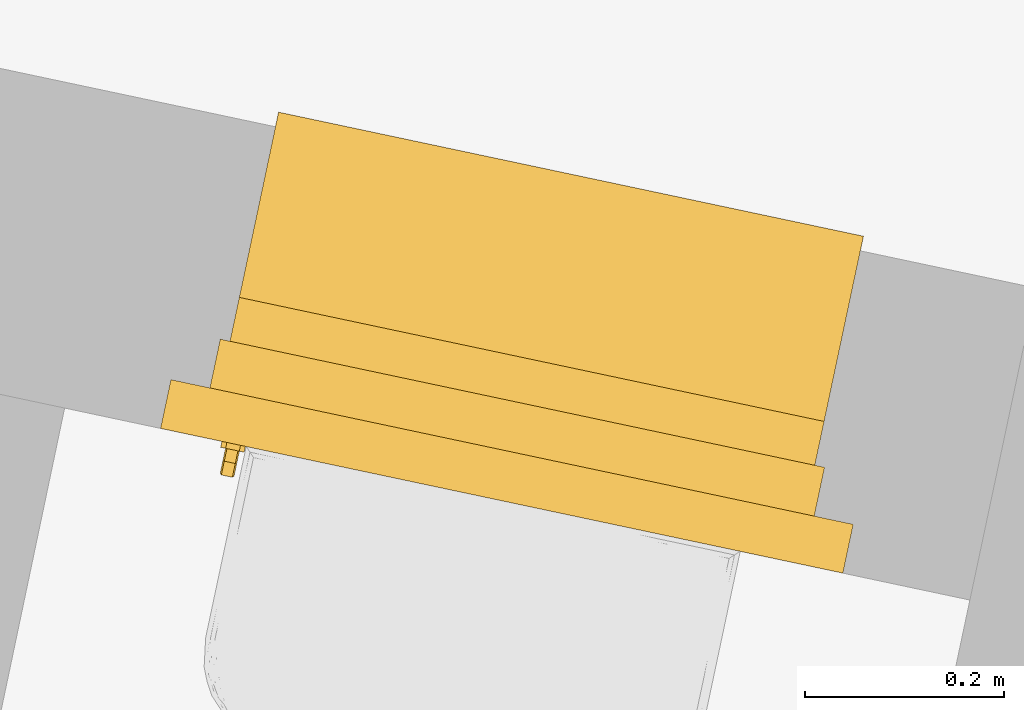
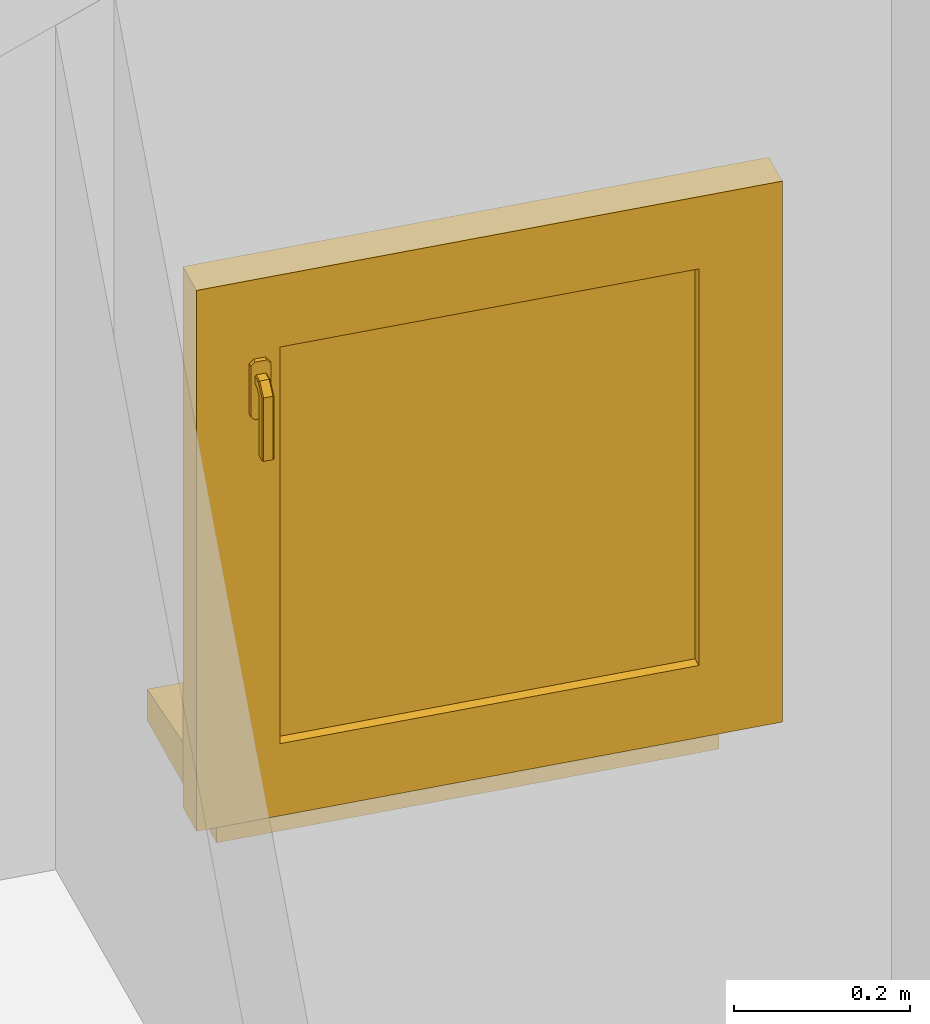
# One storey, part 17 of 20: 1 window.
"""IFC2X3 building model written with IfcOpenShell, lengths in metres."""

from ifc_helpers import new_model, entity, si_unit, converted_unit, derived_unit, direction, frame, origin, place, context, subcontext, project, spatial, faceted_brep, source, transform, mapped, material, material_list, type_object, type_shapes, element, save


model = new_model("IFC2X3")

# Units and contexts
model_context = context("Model", 3, precision=1e-05, world=origin(), true_north=direction((6.12303176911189e-17, 1.0)))
body_context = subcontext(model_context, "Body", "Model", "MODEL_VIEW")
ifc_project = project(units=[si_unit("LENGTHUNIT", "METRE"), si_unit("AREAUNIT", "SQUARE_METRE"), si_unit("VOLUMEUNIT", "CUBIC_METRE"), converted_unit("PLANEANGLEUNIT", "DEGREE", entity("IfcRatioMeasure", 0.0174532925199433), si_unit("PLANEANGLEUNIT", "RADIAN"), dimensions=[0, 0, 0, 0, 0, 0, 0]), si_unit("MASSUNIT", "GRAM", prefix="KILO"), derived_unit("MASSDENSITYUNIT", [(si_unit("MASSUNIT", "GRAM", prefix="KILO"), 1), (si_unit("LENGTHUNIT", "METRE"), -3)]), si_unit("TIMEUNIT", "SECOND"), si_unit("FREQUENCYUNIT", "HERTZ"), si_unit("THERMODYNAMICTEMPERATUREUNIT", "DEGREE_CELSIUS"), derived_unit("THERMALTRANSMITTANCEUNIT", [(si_unit("MASSUNIT", "GRAM", prefix="KILO"), 1), (si_unit("THERMODYNAMICTEMPERATUREUNIT", "KELVIN"), -1), (si_unit("TIMEUNIT", "SECOND"), -3)]), derived_unit("VOLUMETRICFLOWRATEUNIT", [(si_unit("LENGTHUNIT", "METRE"), 3), (si_unit("TIMEUNIT", "SECOND"), -1)]), si_unit("ELECTRICCURRENTUNIT", "AMPERE"), si_unit("ELECTRICVOLTAGEUNIT", "VOLT"), si_unit("POWERUNIT", "WATT"), si_unit("FORCEUNIT", "NEWTON", prefix="KILO"), si_unit("ILLUMINANCEUNIT", "LUX"), si_unit("LUMINOUSFLUXUNIT", "LUMEN"), si_unit("LUMINOUSINTENSITYUNIT", "CANDELA"), derived_unit("USERDEFINED", [(si_unit("MASSUNIT", "GRAM", prefix="KILO"), -1), (si_unit("LENGTHUNIT", "METRE"), -2), (si_unit("TIMEUNIT", "SECOND"), 3), (si_unit("LUMINOUSFLUXUNIT", "LUMEN"), 1)]), derived_unit("LINEARVELOCITYUNIT", [(si_unit("LENGTHUNIT", "METRE"), 1), (si_unit("TIMEUNIT", "SECOND"), -1)]), si_unit("PRESSUREUNIT", "PASCAL"), derived_unit("USERDEFINED", [(si_unit("LENGTHUNIT", "METRE"), -2), (si_unit("MASSUNIT", "GRAM", prefix="KILO"), 1), (si_unit("TIMEUNIT", "SECOND"), -2)])], contexts=[model_context])

# Site, building, storey
site_placement = place(None, origin())
site = spatial("IfcSite", under=ifc_project, at=site_placement, Name="Default", CompositionType="ELEMENT")
building_placement = place(site_placement, origin())
building = spatial("IfcBuilding", under=site, at=building_placement, CompositionType="ELEMENT")
storey_placement = place(building_placement, frame((0.0, 0.0, -0.0686871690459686)))
storey = spatial("IfcBuildingStorey", under=building, at=storey_placement, Name="RDC", CompositionType="ELEMENT", Elevation=-0.0686871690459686)

# Window
ifc_material_1 = material(Name="Fenêtre - Poignée")
ifc_material_2 = material(Name="Fenêtre - Appui")
ifc_material_3 = material(Name="Verre - Opaque Blanc")
ifc_material_4 = material(Name="PVC - Blanc")
ifc_material_5 = material(Name="Fenêtre - Cadre")
ifc_material_list_1 = material_list([ifc_material_1, ifc_material_2, ifc_material_3, ifc_material_4, ifc_material_5])
ifc_material_list_2 = material_list([ifc_material_1, ifc_material_2, ifc_material_3, ifc_material_4, ifc_material_5])
window_style = type_object("IfcWindowStyle", Name="0.60 X 0.70", ConstructionType="NOTDEFINED", OperationType="SINGLE_PANEL", ParameterTakesPrecedence=False, Sizeable=False, material=ifc_material_list_2)
shared_shape = source(origin(), body_context, "Body", "Brep", [
    faceted_brep([(0.0806460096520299, 0.333999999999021, 0.702033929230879), (0.0820339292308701, 0.333999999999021, 0.700646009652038), (0.0820339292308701, 0.333999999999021, 0.689332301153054), (0.0806676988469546, 0.333999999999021, 0.687966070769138), (0.0693323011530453, 0.333999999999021, 0.687966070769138), (0.0679660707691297, 0.333999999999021, 0.689332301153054), (0.0679660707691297, 0.333999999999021, 0.700646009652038), (0.0693539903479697, 0.333999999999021, 0.702033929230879), (0.0806460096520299, 0.321086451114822, 0.702033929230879), (0.0820339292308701, 0.321661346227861, 0.700646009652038), (0.0820339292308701, 0.308353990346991, 0.687338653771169), (0.0820339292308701, 0.308353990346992, 0.600000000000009), (0.0820339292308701, 0.319667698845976, 0.600000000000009), (0.0820339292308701, 0.319667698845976, 0.682652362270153), (0.0820339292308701, 0.326347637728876, 0.689332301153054), (0.0806676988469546, 0.32691354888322, 0.687966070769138), (0.0693323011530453, 0.32691354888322, 0.687966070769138), (0.0679660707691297, 0.326347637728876, 0.689332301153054), (0.0679660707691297, 0.319667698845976, 0.682652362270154), (0.0679660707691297, 0.319667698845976, 0.600000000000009), (0.0679660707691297, 0.308353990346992, 0.600000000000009), (0.0679660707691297, 0.308353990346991, 0.687338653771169), (0.0679660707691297, 0.321661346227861, 0.700646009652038), (0.0693539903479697, 0.321086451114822, 0.702033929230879), (0.0806460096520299, 0.306966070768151, 0.687913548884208), (0.0806676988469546, 0.321033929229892, 0.68208645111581), (0.0693323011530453, 0.321033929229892, 0.68208645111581), (0.0693539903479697, 0.306966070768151, 0.687913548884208), (0.0806460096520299, 0.306966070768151, 0.600000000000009), (0.0693539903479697, 0.306966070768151, 0.600000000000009), (0.0693323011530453, 0.321033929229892, 0.600000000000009), (0.0806676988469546, 0.321033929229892, 0.600000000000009)], [[[0, 1, 2, 3, 4, 5, 6, 7]], [[1, 0, 8, 9]], [[2, 1, 9, 10, 11, 12, 13, 14]], [[3, 2, 14, 15]], [[4, 3, 15, 16]], [[5, 4, 16, 17]], [[6, 5, 17, 18, 19, 20, 21, 22]], [[7, 6, 22, 23]], [[0, 7, 23, 8]], [[9, 8, 24, 10]], [[15, 14, 13, 25]], [[16, 15, 25, 26]], [[17, 16, 26, 18]], [[23, 22, 21, 27]], [[8, 23, 27, 24]], [[28, 29, 20, 19, 30, 31, 12, 11]], [[10, 24, 28, 11]], [[25, 13, 12, 31]], [[26, 25, 31, 30]], [[18, 26, 30, 19]], [[27, 21, 20, 29]], [[24, 27, 29, 28]]]),
    faceted_brep([(0.082000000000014, 0.334, 0.720000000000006), (0.0679999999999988, 0.334, 0.720000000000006), (0.0629999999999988, 0.334, 0.715000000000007), (0.0629999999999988, 0.334, 0.644999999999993), (0.0679999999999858, 0.334, 0.640000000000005), (0.082000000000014, 0.334, 0.640000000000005), (0.0869999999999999, 0.334, 0.644999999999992), (0.0869999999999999, 0.334, 0.715000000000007), (0.082000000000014, 0.34, 0.720000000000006), (0.0869999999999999, 0.34, 0.715000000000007), (0.0869999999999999, 0.34, 0.644999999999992), (0.082000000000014, 0.34, 0.640000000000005), (0.0679999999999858, 0.34, 0.640000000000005), (0.0629999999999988, 0.34, 0.644999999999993), (0.0629999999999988, 0.34, 0.715000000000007), (0.0679999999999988, 0.34, 0.720000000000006)], [[[0, 1, 2, 3, 4, 5, 6, 7]], [[8, 9, 10, 11, 12, 13, 14, 15]], [[1, 0, 8, 15]], [[2, 1, 15, 14]], [[3, 2, 14, 13]], [[4, 3, 13, 12]], [[5, 4, 12, 11]], [[6, 5, 11, 10]], [[7, 6, 10, 9]], [[0, 7, 9, 8]]]),
    faceted_brep([(0.0499999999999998, 0.42000000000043, 0.0799999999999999), (0.0499999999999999, 0.470000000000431, 0.0799999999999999), (0.0499999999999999, 0.470000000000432, 0.0650000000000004), (0.0500000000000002, 0.675000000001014, 0.0434536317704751), (0.0500000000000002, 0.675000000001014, 0.0), (0.0499999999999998, 0.42000000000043, 0.0), (0.649999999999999, 0.420000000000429, 0.0799999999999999), (0.649999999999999, 0.420000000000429, 0.0), (0.65, 0.675000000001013, 0.0), (0.65, 0.675000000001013, 0.0434536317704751), (0.65, 0.470000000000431, 0.0650000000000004), (0.65, 0.47000000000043, 0.0799999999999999)], [[[0, 1, 2, 3, 4, 5]], [[6, 7, 8, 9, 10, 11]], [[1, 0, 6, 11]], [[2, 1, 11, 10]], [[3, 2, 10, 9]], [[4, 3, 9, 8]], [[5, 4, 8, 7]], [[0, 5, 7, 6]]]),
    faceted_brep([(0.0999999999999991, 0.365999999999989, 0.18), (0.0999999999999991, 0.365999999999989, 0.729999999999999), (0.6, 0.365999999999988, 0.729999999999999), (0.6, 0.365999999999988, 0.18), (0.0999999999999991, 0.353999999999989, 0.18), (0.6, 0.353999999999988, 0.18), (0.6, 0.353999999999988, 0.729999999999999), (0.0999999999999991, 0.353999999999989, 0.729999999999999)], [[[0, 1, 2, 3]], [[4, 5, 6, 7]], [[1, 0, 4, 7]], [[2, 1, 7, 6]], [[3, 2, 6, 5]], [[0, 3, 5, 4]]]),
    faceted_brep([(0.0999999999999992, 0.379999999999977, 0.18), (0.0999999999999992, 0.33999999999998, 0.18), (0.6, 0.339999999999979, 0.18), (0.6, 0.379999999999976, 0.18), (0.0499999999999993, 0.33999999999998, 0.13), (0.0499999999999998, 0.379999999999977, 0.13), (0.649999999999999, 0.379999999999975, 0.13), (0.649999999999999, 0.339999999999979, 0.13), (0.6, 0.339999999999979, 0.729999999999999), (0.6, 0.379999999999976, 0.729999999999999), (0.649999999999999, 0.379999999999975, 0.779999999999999), (0.649999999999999, 0.339999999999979, 0.779999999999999), (0.0999999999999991, 0.33999999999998, 0.729999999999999), (0.0999999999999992, 0.379999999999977, 0.729999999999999), (0.0499999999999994, 0.379999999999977, 0.779999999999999), (0.0499999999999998, 0.33999999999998, 0.779999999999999)], [[[0, 1, 2, 3]], [[4, 5, 6, 7]], [[3, 2, 8, 9]], [[7, 6, 10, 11]], [[9, 8, 12, 13]], [[11, 10, 14, 15]], [[13, 12, 1, 0]], [[3, 9, 13, 0], [5, 14, 10, 6]], [[15, 14, 5, 4]], [[7, 11, 15, 4], [1, 12, 8, 2]]], outer=[[True], [True], [True], [True], [True], [True], [True], [False, True], [True], [True, False]]),
    faceted_brep([(0.0, 0.34, 0.0799999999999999), (0.0, 0.39, 0.0799999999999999), (0.0499999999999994, 0.39, 0.0799999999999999), (0.0499999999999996, 0.474999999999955, 0.0799999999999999), (0.649999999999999, 0.474999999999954, 0.0800000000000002), (0.649999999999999, 0.39, 0.0799999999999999), (0.699999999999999, 0.39, 0.0799999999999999), (0.699999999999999, 0.34, 0.0799999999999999), (0.0649999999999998, 0.39, 0.764999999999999), (0.0649999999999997, 0.39, 0.145), (0.634999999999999, 0.39, 0.145), (0.634999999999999, 0.39, 0.764999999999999), (0.0, 0.39, 0.829999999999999), (0.699999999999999, 0.39, 0.829999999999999), (0.649999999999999, 0.39, 0.119376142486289), (0.0499999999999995, 0.39, 0.119376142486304), (0.0649999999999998, 0.38, 0.764999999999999), (0.0649999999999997, 0.38, 0.145), (0.649999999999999, 0.38, 0.779999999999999), (0.0499999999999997, 0.38, 0.779999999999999), (0.0499999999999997, 0.38, 0.13), (0.649999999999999, 0.38, 0.13), (0.634999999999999, 0.38, 0.764999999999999), (0.634999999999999, 0.38, 0.145), (0.0499999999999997, 0.34, 0.779999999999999), (0.0499999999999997, 0.34, 0.13), (0.699999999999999, 0.34, 0.829999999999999), (0.0, 0.34, 0.829999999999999), (0.649999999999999, 0.34, 0.779999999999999), (0.649999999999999, 0.34, 0.13), (0.0499999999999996, 0.484999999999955, 0.0939209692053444), (0.0499999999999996, 0.484999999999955, 0.0749999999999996), (0.0499999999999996, 0.474999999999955, 0.0749999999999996), (0.649999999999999, 0.474999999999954, 0.0749999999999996), (0.649999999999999, 0.484999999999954, 0.0749999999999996), (0.649999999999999, 0.484999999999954, 0.0939209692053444)], [[[0, 1, 2, 3, 4, 5, 6, 7]], [[8, 9, 10, 11], [1, 12, 13, 6, 5, 14, 15, 2]], [[8, 16, 17, 9]], [[18, 19, 20, 21], [16, 22, 23, 17]], [[20, 19, 24, 25]], [[0, 7, 26, 27], [28, 29, 25, 24]], [[1, 0, 27, 12]], [[8, 11, 22, 16]], [[19, 18, 28, 24]], [[13, 12, 27, 26]], [[22, 11, 10, 23]], [[28, 18, 21, 29]], [[6, 13, 26, 7]], [[15, 30, 31, 32, 3, 2]], [[4, 33, 34, 35, 14, 5]], [[25, 29, 21, 20]], [[17, 23, 10, 9]], [[30, 15, 14, 35]], [[31, 30, 35, 34]], [[32, 31, 34, 33]], [[3, 32, 33, 4]]], outer=[[True], [False, True], [True], [True, False], [True], [True, False], [True], [True], [True], [True], [True], [True], [True], [True], [True], [True], [True], [True], [True], [True], [True]]),
    faceted_brep([(0.0499999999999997, 0.440000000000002, 0.0799999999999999), (0.0499999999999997, 0.389999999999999, 0.0799999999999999), (0.0399999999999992, 0.389999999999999, 0.0799999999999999), (0.0399999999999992, 0.440000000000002, 0.0799999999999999), (0.0499999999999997, 0.440000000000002, 0.779999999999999), (0.0499999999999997, 0.389999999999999, 0.779999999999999), (0.649999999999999, 0.389999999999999, 0.779999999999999), (0.649999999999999, 0.389999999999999, 0.0799999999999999), (0.66, 0.389999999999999, 0.0799999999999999), (0.66, 0.389999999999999, 0.789999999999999), (0.0399999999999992, 0.389999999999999, 0.79), (0.0399999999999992, 0.440000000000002, 0.79), (0.66, 0.440000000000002, 0.789999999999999), (0.66, 0.440000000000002, 0.0799999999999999), (0.649999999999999, 0.440000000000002, 0.0799999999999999), (0.649999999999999, 0.440000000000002, 0.779999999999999)], [[[0, 1, 2, 3]], [[1, 0, 4, 5]], [[2, 1, 5, 6, 7, 8, 9, 10]], [[3, 2, 10, 11]], [[0, 3, 11, 12, 13, 14, 15, 4]], [[5, 4, 15, 6]], [[11, 10, 9, 12]], [[14, 13, 8, 7]], [[6, 15, 14, 7]], [[12, 9, 8, 13]]]),
])
type_shapes(window_style, [shared_shape])
window_placement = place(storey_placement, frame((-11.5485406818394, 84.8546305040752, 1.37), z_axis=(0.0, 0.0, 1.0), x_axis=(0.978238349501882, -0.207484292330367, 0.0)))
element("IfcWindow", 1, at=window_placement, inside=storey, type_object=window_style, material=ifc_material_list_1, Name="1 Vantail - Droit:0.60 X 0.70", ObjectType="1 Vantail - Droit:0.60 X 0.70", OverallHeight=1.08, OverallWidth=0.7, context=body_context, shape_type="MappedRepresentation", body=[
    mapped(shared_shape, transform((0.0, 0.0, 0.0), scale=1.0)),
])

save(model, "model.ifc")
